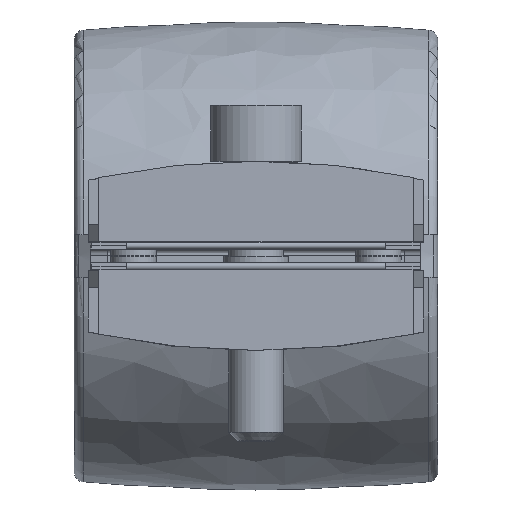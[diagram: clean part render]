
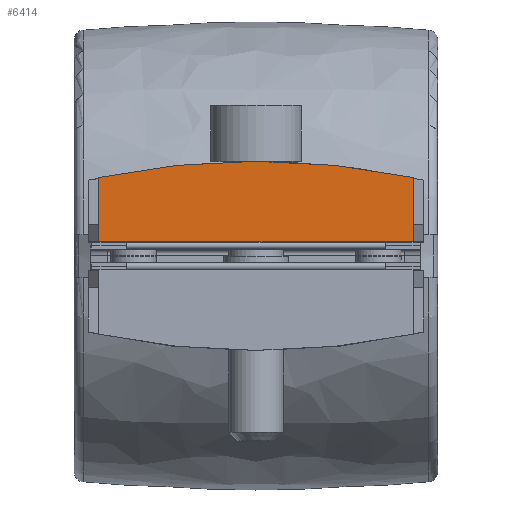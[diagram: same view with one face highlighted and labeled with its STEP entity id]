
A CAD part, front view. The second image highlights one B-rep face of the part: STEP entity #6414.
In plain terms, the highlighted planar face has unit normal (0, -1, 0.004).
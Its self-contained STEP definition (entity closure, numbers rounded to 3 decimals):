
#606=LINE('',#10805,#945);
#613=LINE('',#10825,#952);
#616=LINE('',#10832,#955);
#945=VECTOR('',#7878,45.);
#952=VECTOR('',#7889,9.174);
#955=VECTOR('',#7898,9.174);
#1218=CIRCLE('',#6874,110.);
#1435=PLANE('',#6880);
#1793=FACE_OUTER_BOUND('',#2173,.T.);
#2173=EDGE_LOOP('',(#5083,#5084,#5085,#5086));
#2794=VERTEX_POINT('',#10802);
#2795=VERTEX_POINT('',#10804);
#2800=VERTEX_POINT('',#10824);
#2801=VERTEX_POINT('',#10828);
#3592=EDGE_CURVE('',#2794,#2795,#606,.T.);
#3600=EDGE_CURVE('',#2795,#2800,#613,.T.);
#3602=EDGE_CURVE('',#2801,#2800,#1218,.T.);
#3604=EDGE_CURVE('',#2794,#2801,#616,.T.);
#5083=ORIENTED_EDGE('',*,*,#3604,.T.);
#5084=ORIENTED_EDGE('',*,*,#3602,.T.);
#5085=ORIENTED_EDGE('',*,*,#3600,.F.);
#5086=ORIENTED_EDGE('',*,*,#3592,.F.);
#6414=ADVANCED_FACE('',(#1793),#1435,.T.);
#6874=AXIS2_PLACEMENT_3D('',#10829,#7893,#7894);
#6880=AXIS2_PLACEMENT_3D('',#10868,#7915,#7916);
#7878=DIRECTION('',(-1.,0.,0.));
#7889=DIRECTION('',(0.,0.004,1.));
#7893=DIRECTION('center_axis',(0.,-1.,
0.004));
#7894=DIRECTION('ref_axis',(0.205,0.004,0.979));
#7898=DIRECTION('',(0.,0.004,1.));
#7915=DIRECTION('center_axis',(0.,-1.,
0.004));
#7916=DIRECTION('ref_axis',(0.,-0.004,-1.));
#10802=CARTESIAN_POINT('',(22.5,144.002,-127.388));
#10804=CARTESIAN_POINT('',(-22.5,144.002,-127.388));
#10805=CARTESIAN_POINT('',(22.5,144.002,-127.388));
#10824=CARTESIAN_POINT('',(-22.5,144.038,-118.214));
#10825=CARTESIAN_POINT('',(-22.5,144.025,-121.561));
#10828=CARTESIAN_POINT('',(22.5,144.038,-118.214));
#10829=CARTESIAN_POINT('Origin',(0.,143.621,
-225.887));
#10832=CARTESIAN_POINT('',(22.5,144.025,-121.561));
#10868=CARTESIAN_POINT('Origin',(-22.5,144.047,-115.733));
